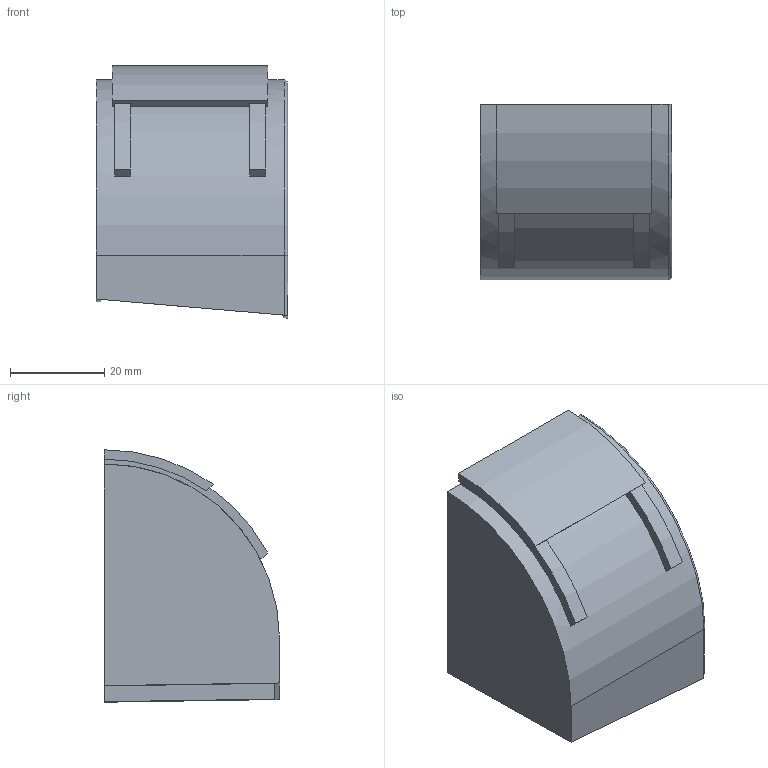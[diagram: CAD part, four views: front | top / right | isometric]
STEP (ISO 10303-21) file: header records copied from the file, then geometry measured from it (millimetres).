
FILE_DESCRIPTION(/* description */ ('','CAx-IF Rec.Pracs.---Representation and Presentation of Product Manufacturing Information (PMI)---4.0---2014-10-13'),/* implementation_level */ '2;1');
FILE_NAME(/* name */ '20vospercompanionway.step',/* time_stamp */ '2025-03-24T19:01:40+11:00',/* author */ (''),/* organization */ (''),/* preprocessor_version */ 'ST-DEVELOPER v20',/* originating_system */ 'Autodesk Translation Framework v13.20.0.188',/* authorisation */ '');
FILE_SCHEMA (('AP242_MANAGED_MODEL_BASED_3D_ENGINEERING_MIM_LF { 1 0 10303 442 1 1 4 }'));
Length unit declared in the file: millimetre
Products named in the file (1): 20scaleVosperDeckStuff
Bounding box: 40.65 x 37.17 x 53.58 mm (x, y, z)
Volume: 7634.9 mm3; surface area: 13300.1 mm2
Topology: 1 solids, 1 shells, 27 faces, 77 edges, 51 vertices
Faces by surface type: plane 16, cylinder 9, bspline 1, torus 1
Entity records: 1063 total; most frequent: CARTESIAN_POINT 314, ORIENTED_EDGE 154, DIRECTION 145, EDGE_CURVE 77, VERTEX_POINT 51, AXIS2_PLACEMENT_3D 50, LINE 45, VECTOR 45
